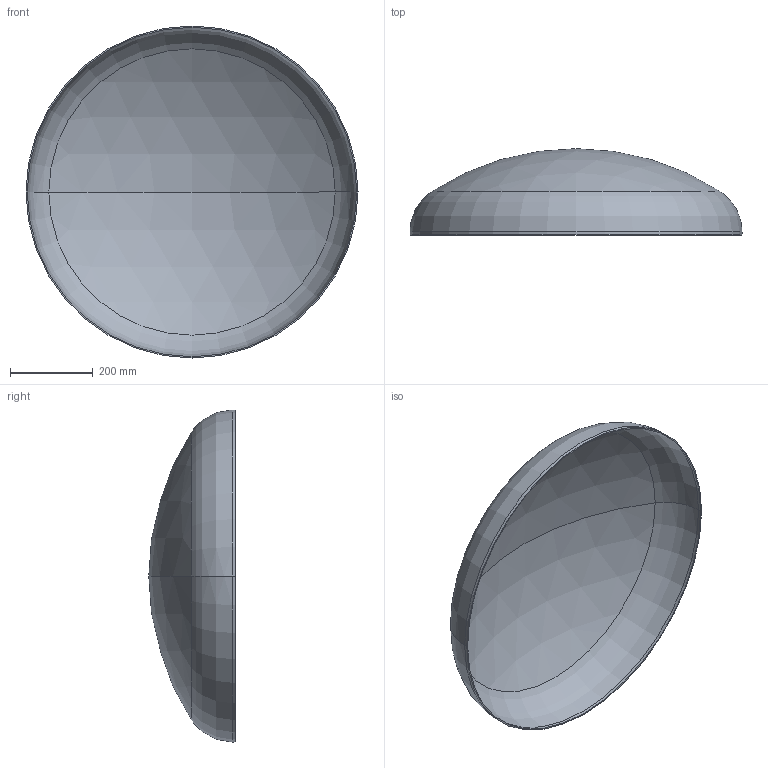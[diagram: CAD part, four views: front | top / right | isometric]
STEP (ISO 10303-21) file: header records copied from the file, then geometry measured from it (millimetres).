
FILE_DESCRIPTION (( 'STEP AP203' ), '1' );
FILE_NAME ('3D_R365_800x3_173374640.STEP', '2024-07-16T07:34:02', ( '' ), ( '' ), 'SwSTEP 2.0', 'SolidWorks 2024', '' );
FILE_SCHEMA (( 'CONFIG_CONTROL_DESIGN' ));
Length unit declared in the file: millimetre
Products named in the file (1): 3D_R365_800x3_173374640
Bounding box: 800 x 208 x 800 mm (x, y, z)
Volume: 2104764.4 mm3; surface area: 1410706 mm2
Topology: 1 solids, 1 shells, 13 faces, 24 edges, 14 vertices
Faces by surface type: sphere 4, torus 4, cylinder 4, plane 1
Entity records: 407 total; most frequent: DIRECTION 72, CARTESIAN_POINT 52, ORIENTED_EDGE 48, AXIS2_PLACEMENT_3D 34, EDGE_CURVE 24, CIRCLE 20, VERTEX_POINT 14, EDGE_LOOP 14
